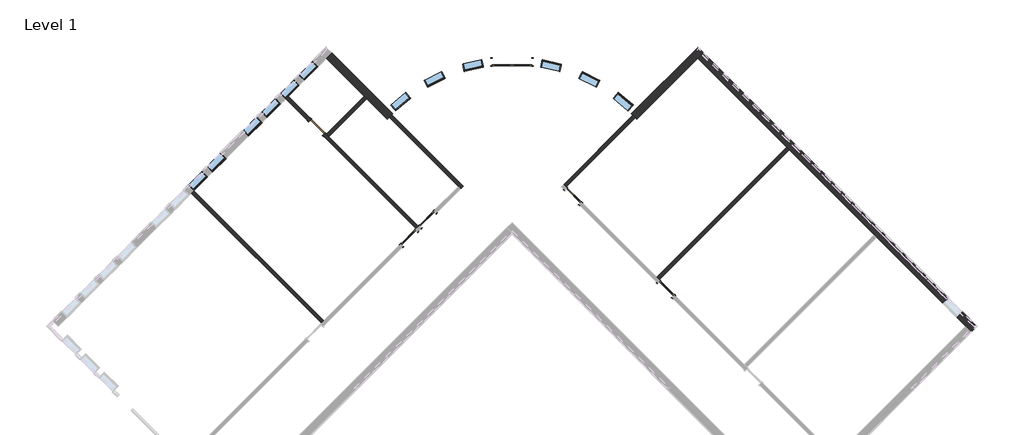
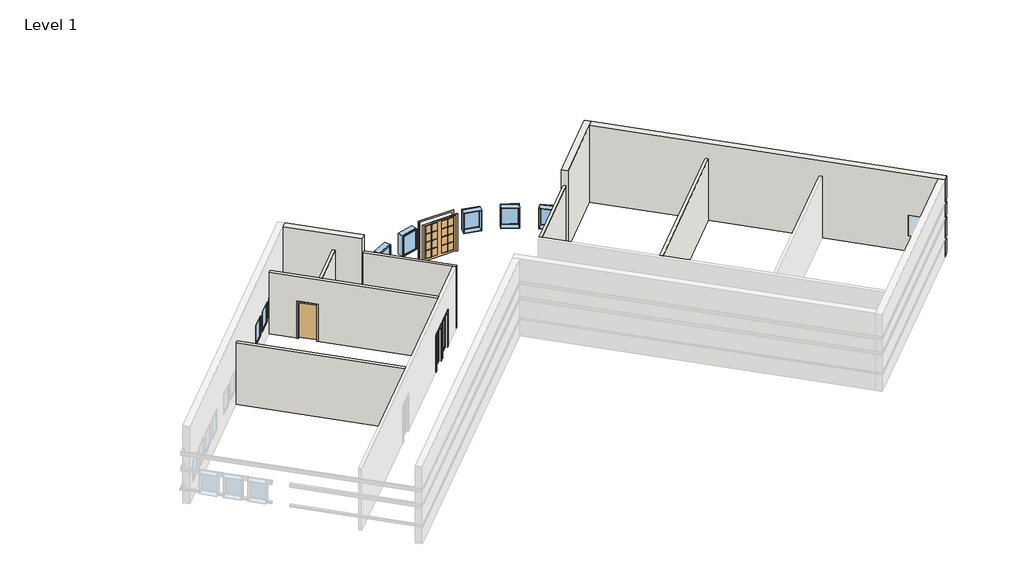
# One storey, part 2 of 3: 12 windows, 9 walls, 6 doors.
"""IFC4 building model written with IfcOpenShell, lengths in millimetres."""

from ifc_helpers import new_model, si_unit, point, frame, frame_2d, origin, origin_with_axes, place, context, project, spatial, polyline, circle_curve, trimmed, segment, composite_curve, outline, extrude, faceted_brep, transform, mapped, element, save
from ifc_brep_helpers import plane_surface, cylinder_surface, revolved_surface, advanced_brep
from components import door_0a477ef8, door_f9494b7c, door_b81abb0e, door_5f5b55da, window_15c49d37, window_0e2fc6ce

model = new_model("IFC4")

# Units and contexts
model_context = context("Model", 3, world=origin())
ifc_project = project(units=[si_unit("LENGTHUNIT", "METRE", prefix="MILLI")], contexts=[model_context])

# Site, building, storey
site = spatial("IfcSite", under=ifc_project)
building = spatial("IfcBuilding", under=site)
storey = spatial("IfcBuildingStorey", under=building, Name="Level 1", Elevation=0.0)

# Doors
placement = place(None, origin())
door_shape = door_0a477ef8(model_context)
element("IfcDoor", 1, ObjectType="Double-Glass 2 : 72\" x 84\"", at=placement, inside=storey, context=model_context, shape_type="MappedRepresentation", body=[
    mapped(door_shape, transform((-2868.7603243, 10905.5717204, 0.0), x_axis=(-0.9999999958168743, -9.146721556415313e-05, 0.0), y_axis=(9.146721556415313e-05, -0.9999999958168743, 0.0), z_axis=(0.0, 0.0, 1.0))),
])
door_2_shape = door_f9494b7c(model_context)
element("IfcDoor", 2, ObjectType="Single-Flush : 36\" x 84\"", at=placement, inside=storey, context=model_context, shape_type="MappedRepresentation", body=[
    mapped(door_2_shape, transform((-11920.1265343, 7875.9588464, 0.0), x_axis=(0.7071067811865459, -0.7071067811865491, 0.0), y_axis=(0.7071067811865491, 0.7071067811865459, 0.0), z_axis=(0.0, 0.0, 1.0))),
])
door_3_shape = door_b81abb0e(model_context)
element("IfcDoor", 3, ObjectType="Single-Glass 1 : 36\" x 84\"", at=placement, inside=storey, context=model_context, shape_type="MappedRepresentation", body=[
    mapped(door_3_shape, transform((-7643.2795567, 2737.0072811, 0.0), x_axis=(0.7071067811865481, 0.7071067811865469, 0.0), y_axis=(-0.7071067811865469, 0.7071067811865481, 0.0), z_axis=(0.0, 0.0, 1.0))),
])
door_4_shape = door_5f5b55da(model_context)
element("IfcDoor", 4, ObjectType="Single-Glass 1 : 36\" x 84\"", at=placement, inside=storey, context=model_context, shape_type="MappedRepresentation", body=[
    mapped(door_4_shape, transform((-6781.1749691, 3599.1118687, 0.0), x_axis=(-0.7071067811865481, -0.7071067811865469, 0.0), y_axis=(0.7071067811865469, -0.7071067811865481, 0.0), z_axis=(0.0, 0.0, 1.0))),
])
element("IfcDoor", 5, ObjectType="Single-Glass 1 : 36\" x 84\"", at=placement, inside=storey, context=model_context, shape_type="MappedRepresentation", body=[
    mapped(door_4_shape, transform((-32.5124941, 4676.7426033, 0.0), x_axis=(-0.7071067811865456, 0.7071067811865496, 0.0), y_axis=(-0.7071067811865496, -0.7071067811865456, 0.0), z_axis=(0.0, 0.0, 1.0))),
])
element("IfcDoor", 6, ObjectType="Single-Glass 1 : 36\" x 84\"", at=placement, inside=storey, context=model_context, shape_type="MappedRepresentation", body=[
    mapped(door_4_shape, transform((4278.010444, 366.2196652, 0.0), x_axis=(-0.7071067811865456, 0.7071067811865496, 0.0), y_axis=(-0.7071067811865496, -0.7071067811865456, 0.0), z_axis=(0.0, 0.0, 1.0))),
])

# Walls
element("IfcWall", 7, ObjectType="Exterior - Split Face and CMU on Mtl. Stud", at=placement, inside=storey, context=model_context, shape_type="AdvancedBrep", body=[
    advanced_brep(
    [(2921.9555443, 8244.1131219, 0.0), (5753.0175119, 11075.1750895, 0.0), (6002.2196193, 11324.3771969, 0.0), (6002.2196193, 11324.3771969, 1016.0), (5937.1127624, 11259.27034, 1016.0), (5937.1127624, 11259.27034, 1085.85), (6002.2196193, 11324.3771969, 1085.85), (6002.2196193, 11324.3771969, 2133.6), (5937.1127624, 11259.27034, 2133.6), (5937.1127624, 11259.27034, 2336.8), (6002.2196193, 11324.3771969, 2336.8), (6002.2196193, 11324.3771969, 3048.0), (5937.1127624, 11259.27034, 3048.0), (5937.1127624, 11259.27034, 3251.2), (6002.2196193, 11324.3771969, 3251.2), (6002.2196193, 11324.3771969, 4572.0), (5753.0175119, 11075.1750895, 4572.0), (2921.9555443, 8244.1131219, 4572.0), (2677.2250436, 8497.7868359, 4572.0), (2926.4294954, 8746.9912878, 4572.0), (5753.0175119, 11573.5793042, 4572.0), (5753.0175119, 11573.5793042, 3251.2), (2926.4294954, 8746.9912878, 3251.2), (2861.3220456, 8681.8838379, 3251.2), (2861.3220456, 8681.8838379, 3048.0), (2926.4294954, 8746.9912878, 3048.0), (5753.0175119, 11573.5793042, 3048.0), (5753.0175119, 11573.5793042, 2336.8), (2926.4294954, 8746.9912878, 2336.8), (2861.3220456, 8681.8838379, 2336.8), (2861.3220456, 8681.8838379, 2133.6), (2926.4294954, 8746.9912878, 2133.6), (5753.0175119, 11573.5793042, 2133.6), (5753.0175119, 11573.5793042, 1085.85), (2926.4294954, 8746.9912878, 1085.85), (2861.3220456, 8681.8838379, 1085.85), (2861.3220456, 8681.8838379, 1016.0), (2926.4294954, 8746.9912878, 1016.0), (5753.0175119, 11573.5793042, 1016.0), (5753.0175119, 11573.5793042, 0.0), (2926.4294954, 8746.9912878, 0.0), (2677.2250436, 8497.7868359, 0.0), (5818.1243688, 11508.4724474, 0.0), (2742.2400511, 8432.5881297, 0.0), (2746.6957919, 8428.0636143, 0.0), (2854.7303749, 8316.0819224, 0.0), (5753.0175119, 11443.3655905, 1085.85), (2926.3399919, 8616.6880705, 1085.85), (2926.3399919, 8616.6880705, 1016.0), (5753.0175119, 11443.3655905, 1016.0), (2926.3399919, 8616.6880705, 2133.6), (5753.0175119, 11443.3655905, 2133.6), (2926.3399919, 8616.6880705, 2336.8), (5753.0175119, 11443.3655905, 2336.8), (2926.3399919, 8616.6880705, 3048.0), (5753.0175119, 11443.3655905, 3048.0), (2926.3399919, 8616.6880705, 3251.2), (5753.0175119, 11443.3655905, 3251.2)],
    [
        (0, 1),
        (1, 2),
        (2, 3),
        (3, 4),
        (4, 5),
        (5, 6),
        (6, 7),
        (7, 8),
        (8, 9),
        (9, 10),
        (10, 11),
        (11, 12),
        (12, 13),
        (13, 14),
        (14, 15),
        (15, 16),
        (16, 17),
        (17, 0),
        (18, 19),
        (19, 20),
        (20, 21),
        (21, 22),
        (22, 23),
        (23, 24),
        (24, 25),
        (25, 26),
        (26, 27),
        (27, 28),
        (28, 29),
        (29, 30),
        (30, 31),
        (31, 32),
        (32, 33),
        (33, 34),
        (34, 35),
        (35, 36),
        (36, 37),
        (37, 38),
        (38, 39),
        (39, 40),
        (40, 41),
        (41, 18),
        (15, 20),
        (18, 17, circle_curve(frame((-2868.0283643, 2903.1420194, 4572.0), z_axis=(0.0, 0.0, -1.0), x_axis=(1.0, 0.0, 0.0)), 7877.175)),
        (14, 21),
        (2, 42),
        (42, 39),
        (38, 3),
        (6, 33),
        (32, 7),
        (10, 27),
        (26, 11),
        (41, 43, circle_curve(frame((-2868.0283643, 2903.1420194, 0.0), z_axis=(0.0, 0.0, -1.0), x_axis=(1.0, 0.0, 0.0)), 7877.175)),
        (43, 44, circle_curve(frame((-2868.0283643, 2903.1420194, 0.0), z_axis=(0.0, 0.0, -1.0), x_axis=(1.0, 0.0, 0.0)), 7877.175)),
        (44, 45, circle_curve(frame((-2868.0283643, 2903.1420194, 0.0), z_axis=(0.0, 0.0, -1.0), x_axis=(1.0, 0.0, 0.0)), 7877.175)),
        (45, 0, circle_curve(frame((-2868.0283643, 2903.1420194, 0.0), z_axis=(0.0, 0.0, -1.0), x_axis=(1.0, 0.0, 0.0)), 7877.175)),
        (43, 42),
        (46, 47),
        (47, 35, circle_curve(frame((-2868.0283643, 2903.1420194, 1085.85), z_axis=(0.0, 0.0, 1.0), x_axis=(0.6842862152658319, 0.7292135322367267, 0.0)), 8137.525)),
        (5, 46),
        (48, 49),
        (49, 4),
        (36, 48, circle_curve(frame((-2868.0283643, 2903.1420194, 1016.0), z_axis=(0.0, 0.0, -1.0), x_axis=(0.6842862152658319, 0.7292135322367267, 0.0)), 8137.525)),
        (47, 48),
        (46, 49),
        (50, 51),
        (51, 8),
        (30, 50, circle_curve(frame((-2868.0283643, 2903.1420194, 2133.6), z_axis=(0.0, 0.0, -1.0), x_axis=(0.6842862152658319, 0.7292135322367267, 0.0)), 8137.525)),
        (52, 50),
        (29, 52, circle_curve(frame((-2868.0283643, 2903.1420194, 2336.8), z_axis=(0.0, 0.0, -1.0), x_axis=(0.6842862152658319, 0.7292135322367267, 0.0)), 8137.525)),
        (53, 52),
        (9, 53),
        (53, 51),
        (54, 55),
        (55, 12),
        (24, 54, circle_curve(frame((-2868.0283643, 2903.1420194, 3048.0), z_axis=(0.0, 0.0, -1.0), x_axis=(-0.7040995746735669, 0.7101012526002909, 0.0)), 8137.525)),
        (56, 54),
        (23, 56, circle_curve(frame((-2868.0283643, 2903.1420194, 3251.2), z_axis=(0.0, 0.0, -1.0), x_axis=(-0.7040995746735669, 0.7101012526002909, 0.0)), 8137.525)),
        (57, 56),
        (13, 57),
        (57, 55),
    ],
    [
        plane_surface(frame((2984.8535626, 8307.0111402, 0.0), z_axis=(0.707106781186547, -0.7071067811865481, 0.0), x_axis=(0.7071067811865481, 0.707106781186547, 0.0))),
        plane_surface(frame((2735.6514552, 8556.2132476, 0.0), z_axis=(-0.707106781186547, 0.7071067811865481, 0.0), x_axis=(-0.7071067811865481, -0.707106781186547, 0.0))),
        plane_surface(frame((5877.6185656, 11199.7761432, 4572.0), z_axis=(0.0, 0.0, 1.0), x_axis=(-0.707106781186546, 0.7071067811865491, 0.0))),
        plane_surface(frame((5753.0175119, 11573.5793042, 0.0), z_axis=(0.7071067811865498, 0.7071067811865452, 0.0), x_axis=(-0.7071067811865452, 0.7071067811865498, 0.0))),
        revolved_surface(polyline([(5009.146635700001, 2903.1420194, 0.0), (5009.146635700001, 2903.1420194, 4572.0)]), (-2868.0283643, 2903.1420194, 0.0), (0.0, 0.0, -1.0)),
        plane_surface(frame((3050.2065213, 8372.3640989, 0.0), z_axis=(0.0, 0.0, -1.0000000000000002), x_axis=(-0.7071067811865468, 0.7071067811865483, 0.0))),
        plane_surface(frame((0.0, 0.0, 0.0), z_axis=(0.0, 0.0, -1.0), x_axis=(1.0, 0.0, 0.0))),
        plane_surface(frame((-2868.0283643, 2903.1420194, 1085.85), z_axis=(0.0, 0.0, -1.0), x_axis=(0.6842862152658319, 0.7292135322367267, 0.0))),
        plane_surface(frame((-2868.0283643, 2903.1420194, 1016.0), z_axis=(0.0, 0.0, 1.0), x_axis=(0.6842862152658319, 0.7292135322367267, 0.0))),
        cylinder_surface(frame((-2868.0283643, 2903.1420194, 1016.0), z_axis=(0.0, 0.0, -1.0), x_axis=(0.6842862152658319, 0.7292135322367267, 0.0)), 8137.525),
        plane_surface(frame((2926.3399919, 8616.6880705, 1016.0), z_axis=(-0.7071067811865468, 0.7071067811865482, 0.0), x_axis=(0.7071067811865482, 0.7071067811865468, 0.0))),
        plane_surface(frame((5753.0175119, 11443.3655905, 1016.0), z_axis=(0.70710678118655, 0.7071067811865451, 0.0), x_axis=(0.7071067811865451, -0.70710678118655, 0.0))),
        plane_surface(frame((-2868.0283643, 2903.1420194, 2133.6), z_axis=(0.0, 0.0, 1.0), x_axis=(0.6842862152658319, 0.7292135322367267, 0.0))),
        cylinder_surface(frame((-2868.0283643, 2903.1420194, 2133.6), z_axis=(0.0, 0.0, -1.0), x_axis=(0.6842862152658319, 0.7292135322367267, 0.0)), 8137.525),
        plane_surface(frame((-2868.0283643, 2903.1420194, 2336.8), z_axis=(0.0, 0.0, -1.0), x_axis=(0.6842862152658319, 0.7292135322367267, 0.0))),
        plane_surface(frame((2926.3399919, 8616.6880705, 2133.6), z_axis=(-0.707106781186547, 0.7071067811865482, 0.0), x_axis=(0.7071067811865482, 0.707106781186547, 0.0))),
        plane_surface(frame((5753.0175119, 11443.3655905, 2133.6), z_axis=(0.7071067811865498, 0.7071067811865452, 0.0), x_axis=(0.7071067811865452, -0.7071067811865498, 0.0))),
        plane_surface(frame((-2868.0283643, 2903.1420194, 3048.0), z_axis=(0.0, 0.0, 1.0), x_axis=(-0.7040995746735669, 0.7101012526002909, 0.0))),
        cylinder_surface(frame((-2868.0283643, 2903.1420194, 3048.0), z_axis=(0.0, 0.0, -1.0), x_axis=(-0.7040995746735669, 0.7101012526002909, 0.0)), 8137.525),
        plane_surface(frame((-2868.0283643, 2903.1420194, 3251.2), z_axis=(0.0, 0.0, -1.0), x_axis=(-0.7040995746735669, 0.7101012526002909, 0.0))),
        plane_surface(frame((2926.3399919, 8616.6880705, 3048.0), z_axis=(-0.7071067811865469, 0.7071067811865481, 0.0), x_axis=(0.7071067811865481, 0.7071067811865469, 0.0))),
        plane_surface(frame((5753.0175119, 11443.3655905, 3048.0), z_axis=(0.7071067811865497, 0.7071067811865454, 0.0), x_axis=(0.7071067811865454, -0.7071067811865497, 0.0))),
    ],
    [
        (0, [[1, 2, 3, 4, 5, 6, 7, 8, 9, 10, 11, 12, 13, 14, 15, 16, 17, 18]]),
        (1, [[19, 20, 21, 22, 23, 24, 25, 26, 27, 28, 29, 30, 31, 32, 33, 34, 35, 36, 37, 38, 39, 40, 41, 42]]),
        (2, [[-17, -16, 43, -20, -19, 44]]),
        (3, [[-43, -15, 45, -21]]),
        (3, [[46, 47, -39, 48, -3]]),
        (3, [[49, -33, 50, -7]]),
        (3, [[51, -27, 52, -11]]),
        (4, [[-44, -42, 53, 54, 55, 56, -18]]),
        (5, [[-2, -1, -56, -55, -54, 57, -46]]),
        (6, [[-53, -41, -40, -47, -57]]),
        (7, [[58, 59, -35, -34, -49, -6, 60]]),
        (8, [[61, 62, -4, -48, -38, -37, 63]]),
        (9, [[64, -63, -36, -59]]),
        (10, [[-58, 65, -61, -64]]),
        (11, [[-65, -60, -5, -62]]),
        (12, [[66, 67, -8, -50, -32, -31, 68]]),
        (13, [[69, -68, -30, 70]]),
        (14, [[71, -70, -29, -28, -51, -10, 72]]),
        (15, [[-66, -69, -71, 73]]),
        (16, [[-73, -72, -9, -67]]),
        (17, [[74, 75, -12, -52, -26, -25, 76]]),
        (18, [[77, -76, -24, 78]]),
        (19, [[79, -78, -23, -22, -45, -14, 80]]),
        (20, [[-74, -77, -79, 81]]),
        (21, [[-81, -80, -13, -75]]),
    ],
),
])
element("IfcWall", 8, ObjectType="Exterior - Split Face and CMU on Mtl. Stud", at=placement, inside=storey, context=model_context, shape_type="Brep", body=[
    faceted_brep([(5753.0175119, 11075.1750895, 0.0), (9883.9353276, 6944.2572738, 0.0), (9993.9434651, 6834.2491364, 0.0), (13945.2561584, 2882.9364431, 0.0), (14055.2642958, 2772.9283056, 0.0), (18186.1821115, -1357.9895101, 0.0), (18435.3842189, -1607.1916175, 0.0), (18435.3842189, -1607.1916175, 1016.0), (18370.277362, -1542.0847606, 1016.0), (18370.277362, -1542.0847606, 1085.85), (18435.3842189, -1607.1916175, 1085.85), (18435.3842189, -1607.1916175, 2133.6), (18370.277362, -1542.0847606, 2133.6), (18370.277362, -1542.0847606, 2336.8), (18435.3842189, -1607.1916175, 2336.8), (18435.3842189, -1607.1916175, 3048.0), (18370.277362, -1542.0847606, 3048.0), (18370.277362, -1542.0847606, 3251.2), (18435.3842189, -1607.1916175, 3251.2), (18435.3842189, -1607.1916175, 4572.0), (18186.1821115, -1357.9895101, 4572.0), (5753.0175119, 11075.1750895, 4572.0), (17771.967798, -943.7751965, 2133.6), (17771.967798, -943.7751965, 914.4), (17125.3893572, -297.1967558, 914.4), (17125.3893572, -297.1967558, 2133.6), (6002.2196193, 11324.3771969, 4572.0), (18684.5863263, -1357.9895101, 4572.0), (18684.5863263, -1357.9895101, 3251.2), (6002.2196193, 11324.3771969, 3251.2), (18684.5863263, -1357.9895101, 0.0), (6002.2196193, 11324.3771969, 0.0), (6002.2196193, 11324.3771969, 1016.0), (17374.5914646, -47.9946484, 1016.0), (17374.5914646, -47.9946484, 914.4), (18021.1699053, -694.5730891, 914.4), (18021.1699053, -694.5730891, 1016.0), (18684.5863263, -1357.9895101, 1016.0), (18021.1699053, -694.5730891, 2133.6), (17374.5914646, -47.9946484, 2133.6), (17374.5914646, -47.9946484, 2336.8), (6002.2196193, 11324.3771969, 2336.8), (6002.2196193, 11324.3771969, 3048.0), (18684.5863263, -1357.9895101, 3048.0), (18684.5863263, -1357.9895101, 2336.8), (18021.1699053, -694.5730891, 2336.8), (17374.5914646, -47.9946484, 1085.85), (6002.2196193, 11324.3771969, 1085.85), (6002.2196193, 11324.3771969, 2133.6), (18021.1699053, -694.5730891, 1085.85), (18684.5863263, -1357.9895101, 2133.6), (18684.5863263, -1357.9895101, 1085.85), (18619.4794694, -1423.096367, 0.0), (5937.1127624, 11259.27034, 3251.2), (5937.1127624, 11259.27034, 3048.0), (5937.1127624, 11259.27034, 2336.8), (5937.1127624, 11259.27034, 2133.6), (5937.1127624, 11259.27034, 1085.85), (5937.1127624, 11259.27034, 1016.0), (5937.1127624, 11259.27034, 0.0), (17956.0630484, -759.679946, 2133.6), (17956.0630484, -759.679946, 1085.85), (17956.0630484, -759.679946, 1016.0), (17309.4846077, -113.1015053, 1016.0), (17309.4846077, -113.1015053, 1085.85), (17309.4846077, -113.1015053, 2133.6), (18554.3726125, -1357.9895101, 1085.85), (18554.3726125, -1357.9895101, 1016.0), (17309.4846077, -113.1015053, 2133.6), (17309.4846077, -113.1015053, 2336.8), (17956.0630484, -759.679946, 2133.6), (17956.0630484, -759.679946, 2336.8), (18554.3726125, -1357.9895101, 2133.6), (18554.3726125, -1357.9895101, 2336.8), (18554.3726125, -1357.9895101, 3048.0), (18554.3726125, -1357.9895101, 3251.2)], [[[0, 1, 2, 3, 4, 5, 6, 7, 8, 9, 10, 11, 12, 13, 14, 15, 16, 17, 18, 19, 20, 21], [22, 23, 24, 25]], [[26, 27, 28, 29]], [[30, 31, 32, 33, 34, 35, 36, 37]], [[38, 39, 40, 41, 42, 43, 44, 45]], [[39, 46, 47, 48]], [[49, 38, 50, 51]], [[21, 20, 19, 27, 26]], [[27, 19, 18, 28]], [[6, 52, 30, 37, 7]], [[10, 51, 50, 11]], [[14, 44, 43, 15]], [[0, 21, 26, 29, 53, 54, 42, 41, 55, 56, 48, 47, 57, 58, 32, 31, 59]], [[6, 5, 4, 3, 2, 1, 0, 59, 52]], [[59, 31, 30, 52]], [[23, 22, 60, 38, 49, 61, 62, 36, 35]], [[24, 23, 35, 34]], [[25, 24, 34, 33, 63, 64, 46, 39, 65]], [[22, 25, 65, 39, 38, 60]], [[64, 57, 47, 46]], [[58, 63, 33, 32]], [[57, 64, 63, 58]], [[66, 61, 49, 51, 10, 9]], [[62, 67, 8, 7, 37, 36]], [[61, 66, 67, 62]], [[67, 66, 9, 8]], [[68, 39, 48, 56]], [[40, 69, 55, 41]], [[39, 68, 69, 40]], [[69, 68, 56, 55]], [[70, 38, 45, 71]], [[38, 70, 72, 12, 11, 50]], [[70, 71, 73, 72]], [[71, 45, 44, 14, 13, 73]], [[72, 73, 13, 12]], [[54, 74, 16, 15, 43, 42]], [[17, 75, 53, 29, 28, 18]], [[75, 74, 54, 53]], [[74, 75, 17, 16]]]),
])
element("IfcWall", 9, ObjectType="Exterior - Split Face and CMU on Mtl. Stud", at=placement, inside=storey, context=model_context, shape_type="AdvancedBrep", body=[
    advanced_brep(
    [(-11489.0742405, 11075.1750895, 0.0), (-9728.9440408, 9315.0448898, 0.0), (-9618.9359033, 9205.0367523, 0.0), (-8658.0122729, 8244.1131219, 0.0), (-8658.0122729, 8244.1131219, 4572.0), (-11489.0742405, 11075.1750895, 4572.0), (-11239.8721332, 11324.3771969, 4572.0), (-8662.486224, 8746.9912878, 4572.0), (-8413.2817722, 8497.7868359, 4572.0), (-8413.2817722, 8497.7868359, 0.0), (-8662.486224, 8746.9912878, 0.0), (-11239.8721332, 11324.3771969, 0.0), (-11239.8721332, 11324.3771969, 1016.0), (-8662.486224, 8746.9912878, 1016.0), (-8597.3787742, 8681.8838379, 1016.0), (-8597.3787742, 8681.8838379, 1085.85), (-8662.486224, 8746.9912878, 1085.85), (-11239.8721332, 11324.3771969, 1085.85), (-11239.8721332, 11324.3771969, 2133.6), (-8662.486224, 8746.9912878, 2133.6), (-8597.3787742, 8681.8838379, 2133.6), (-8597.3787742, 8681.8838379, 2336.8), (-8662.486224, 8746.9912878, 2336.8), (-11239.8721332, 11324.3771969, 2336.8), (-11239.8721332, 11324.3771969, 3048.0), (-8662.486224, 8746.9912878, 3048.0), (-8597.3787742, 8681.8838379, 3048.0), (-8597.3787742, 8681.8838379, 3251.2), (-8662.486224, 8746.9912878, 3251.2), (-11239.8721332, 11324.3771969, 3251.2), (-8478.2967797, 8432.5881297, 0.0), (-11304.9789901, 11259.27034, 3251.2), (-11304.9789901, 11259.27034, 3048.0), (-11304.9789901, 11259.27034, 2336.8), (-11304.9789901, 11259.27034, 2133.6), (-11304.9789901, 11259.27034, 1085.85), (-11304.9789901, 11259.27034, 1016.0), (-11304.9789901, 11259.27034, 0.0), (-8662.3967205, 8616.6880705, 1085.85), (-8662.3967205, 8616.6880705, 1016.0), (-8662.3967205, 8616.6880705, 2336.8), (-8662.3967205, 8616.6880705, 2133.6), (-8662.3967205, 8616.6880705, 3251.2), (-8662.3967205, 8616.6880705, 3048.0)],
    [
        (0, 1),
        (1, 2),
        (2, 3),
        (3, 4),
        (4, 5),
        (5, 0),
        (6, 7),
        (7, 8),
        (8, 9),
        (9, 10),
        (10, 11),
        (11, 12),
        (12, 13),
        (13, 14),
        (14, 15),
        (15, 16),
        (16, 17),
        (17, 18),
        (18, 19),
        (19, 20),
        (20, 21),
        (21, 22),
        (22, 23),
        (23, 24),
        (24, 25),
        (25, 26),
        (26, 27),
        (27, 28),
        (28, 29),
        (29, 6),
        (4, 8, circle_curve(frame((-2868.0283643, 2903.1420194, 4572.0), z_axis=(0.0, 0.0, -1.0), x_axis=(1.0, 0.0, 0.0)), 7877.175)),
        (6, 5),
        (3, 30, circle_curve(frame((-2868.0283643, 2903.1420194, 0.0), z_axis=(0.0, 0.0, -1.0), x_axis=(1.0, 0.0, 0.0)), 7877.175)),
        (30, 9, circle_curve(frame((-2868.0283643, 2903.1420194, 0.0), z_axis=(0.0, 0.0, -1.0), x_axis=(1.0, 0.0, 0.0)), 7877.175)),
        (29, 31),
        (31, 32),
        (32, 24),
        (23, 33),
        (33, 34),
        (34, 18),
        (17, 35),
        (35, 36),
        (36, 12),
        (11, 37),
        (37, 0),
        (37, 30),
        (38, 39),
        (39, 36),
        (35, 38),
        (15, 38, circle_curve(frame((-2868.0283643, 2903.1420194, 1085.85), z_axis=(0.0, 0.0, 1.0), x_axis=(-0.7040995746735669, 0.7101012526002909, 0.0)), 8137.525)),
        (39, 14, circle_curve(frame((-2868.0283643, 2903.1420194, 1016.0), z_axis=(0.0, 0.0, -1.0), x_axis=(-0.7040995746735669, 0.7101012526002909, 0.0)), 8137.525)),
        (40, 41),
        (41, 34),
        (33, 40),
        (41, 20, circle_curve(frame((-2868.0283643, 2903.1420194, 2133.6), z_axis=(0.0, 0.0, -1.0), x_axis=(-0.7120553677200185, 0.70212331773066, 0.0)), 8137.525)),
        (40, 21, circle_curve(frame((-2868.0283643, 2903.1420194, 2336.8), z_axis=(0.0, 0.0, -1.0), x_axis=(-0.7120553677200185, 0.70212331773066, 0.0)), 8137.525)),
        (42, 43),
        (43, 32),
        (31, 42),
        (43, 26, circle_curve(frame((-2868.0283643, 2903.1420194, 3048.0), z_axis=(0.0, 0.0, -1.0), x_axis=(-0.7120553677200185, 0.70212331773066, 0.0)), 8137.525)),
        (42, 27, circle_curve(frame((-2868.0283643, 2903.1420194, 3251.2), z_axis=(0.0, 0.0, -1.0), x_axis=(-0.7120553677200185, 0.70212331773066, 0.0)), 8137.525)),
    ],
    [
        plane_surface(frame((-11738.2763479, 11324.3771969, 0.0), z_axis=(-0.7071067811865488, -0.7071067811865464, 0.0), x_axis=(0.7071067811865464, -0.7071067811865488, 0.0))),
        plane_surface(frame((-11489.0742405, 11573.5793042, 0.0), z_axis=(0.7071067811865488, 0.7071067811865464, 0.0), x_axis=(-0.7071067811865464, 0.7071067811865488, 0.0))),
        plane_surface(frame((-8786.2632499, 8372.3640989, 4572.0), z_axis=(0.0, 0.0, 1.0), x_axis=(0.7071067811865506, 0.7071067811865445, 0.0))),
        revolved_surface(polyline([(5009.146635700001, 2903.1420194, 0.0), (5009.146635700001, 2903.1420194, 4572.0)]), (-2868.0283643, 2903.1420194, 0.0), (0.0, 0.0, -1.0)),
        plane_surface(frame((-24171.4409475, -1607.1916175, 0.0), z_axis=(-0.7071067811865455, 0.7071067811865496, 0.0), x_axis=(0.7071067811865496, 0.7071067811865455, 0.0))),
        plane_surface(frame((-11613.6752942, 11199.7761432, 0.0), z_axis=(0.0, 0.0, -1.0000000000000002), x_axis=(0.7071067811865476, 0.7071067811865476, 0.0))),
        plane_surface(frame((0.0, 0.0, 0.0), z_axis=(0.0, 0.0, -1.0), x_axis=(1.0, 0.0, 0.0))),
        plane_surface(frame((-11489.0742405, 11443.3655905, 1016.0), z_axis=(0.7071067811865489, 0.7071067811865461, 0.0), x_axis=(0.7071067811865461, -0.7071067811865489, 0.0))),
        plane_surface(frame((-2868.0283643, 2903.1420194, 1085.85), z_axis=(0.0, 0.0, -1.0), x_axis=(-0.7040995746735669, 0.7101012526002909, 0.0))),
        plane_surface(frame((-2868.0283643, 2903.1420194, 1016.0), z_axis=(0.0, 0.0, 1.0), x_axis=(-0.7040995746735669, 0.7101012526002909, 0.0))),
        cylinder_surface(frame((-2868.0283643, 2903.1420194, 1016.0), z_axis=(0.0, 0.0, -1.0), x_axis=(-0.7040995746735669, 0.7101012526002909, 0.0)), 8137.525),
        plane_surface(frame((-11489.0742405, 11443.3655905, 2133.6), z_axis=(0.7071067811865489, 0.7071067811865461, 0.0), x_axis=(0.7071067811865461, -0.7071067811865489, 0.0))),
        plane_surface(frame((-2868.0283643, 2903.1420194, 2133.6), z_axis=(0.0, 0.0, 1.0), x_axis=(-0.7120553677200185, 0.70212331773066, 0.0))),
        cylinder_surface(frame((-2868.0283643, 2903.1420194, 2133.6), z_axis=(0.0, 0.0, -1.0), x_axis=(-0.7120553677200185, 0.70212331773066, 0.0)), 8137.525),
        plane_surface(frame((-2868.0283643, 2903.1420194, 2336.8), z_axis=(0.0, 0.0, -1.0), x_axis=(-0.7120553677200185, 0.70212331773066, 0.0))),
        plane_surface(frame((-11489.0742405, 11443.3655905, 3048.0), z_axis=(0.7071067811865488, 0.7071067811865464, 0.0), x_axis=(0.7071067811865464, -0.7071067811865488, 0.0))),
        plane_surface(frame((-2868.0283643, 2903.1420194, 3048.0), z_axis=(0.0, 0.0, 1.0), x_axis=(-0.7120553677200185, 0.70212331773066, 0.0))),
        cylinder_surface(frame((-2868.0283643, 2903.1420194, 3048.0), z_axis=(0.0, 0.0, -1.0), x_axis=(-0.7120553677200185, 0.70212331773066, 0.0)), 8137.525),
        plane_surface(frame((-2868.0283643, 2903.1420194, 3251.2), z_axis=(0.0, 0.0, -1.0), x_axis=(-0.7120553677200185, 0.70212331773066, 0.0))),
    ],
    [
        (0, [[1, 2, 3, 4, 5, 6]]),
        (1, [[7, 8, 9, 10, 11, 12, 13, 14, 15, 16, 17, 18, 19, 20, 21, 22, 23, 24, 25, 26, 27, 28, 29, 30]]),
        (2, [[-5, 31, -8, -7, 32]]),
        (3, [[-4, 33, 34, -9, -31]]),
        (4, [[-6, -32, -30, 35, 36, 37, -24, 38, 39, 40, -18, 41, 42, 43, -12, 44, 45]]),
        (5, [[-3, -2, -1, -45, 46, -33]]),
        (6, [[-44, -11, -10, -34, -46]]),
        (7, [[47, 48, -42, 49]]),
        (8, [[50, -49, -41, -17, -16]]),
        (9, [[-48, 51, -14, -13, -43]]),
        (10, [[-47, -50, -15, -51]]),
        (11, [[52, 53, -39, 54]]),
        (12, [[-53, 55, -20, -19, -40]]),
        (13, [[-52, 56, -21, -55]]),
        (14, [[-56, -54, -38, -23, -22]]),
        (15, [[57, 58, -36, 59]]),
        (16, [[-58, 60, -26, -25, -37]]),
        (17, [[-57, 61, -27, -60]]),
        (18, [[-61, -59, -35, -29, -28]]),
    ],
),
])
element("IfcWall", 10, ObjectType="Interior - 6 1/8\" Partition (2-hr)", at=placement, inside=storey, context=model_context, shape_type="Brep", body=[
    faceted_brep([(-7212.2272629, 3278.0677124, 0.0), (-11379.066103, 7444.9065526, 0.0), (-11489.0742405, 7554.9146901, 0.0), (-11541.8332452, 7607.6736948, 0.0), (-11541.8332452, 7607.6736948, 2133.6), (-12188.411686, 8254.2521355, 2133.6), (-12188.411686, 8254.2521355, 0.0), (-13249.2044403, 9315.0448898, 0.0), (-13249.2044403, 9315.0448898, 3657.6), (-11489.0742405, 7554.9146901, 3657.6), (-11379.066103, 7444.9065526, 3657.6), (-7212.2272629, 3278.0677124, 3657.6), (-11651.8413827, 7497.6655573, 2133.6), (-11651.8413827, 7497.6655573, 0.0), (-7322.2354004, 3168.0595749, 0.0), (-7322.2354004, 3168.0595749, 3657.6), (-13359.2125777, 9205.0367523, 3657.6), (-13359.2125777, 9205.0367523, 0.0), (-12298.4198234, 8144.243998, 0.0), (-12298.4198234, 8144.243998, 2133.6)], [[[0, 1, 2, 3, 4, 5, 6, 7, 8, 9, 10, 11]], [[12, 13, 14, 15, 16, 17, 18, 19]], [[14, 13, 3, 2, 1, 0]], [[18, 17, 7, 6]], [[11, 10, 9, 8, 16, 15]], [[8, 7, 17, 16]], [[0, 11, 15, 14]], [[4, 3, 13, 12]], [[5, 4, 12, 19]], [[6, 5, 19, 18]]]),
])
element("IfcWall", 11, ObjectType="Interior - 6 1/8\" Partition (2-hr)", at=placement, inside=storey, context=model_context, shape_type="AdvancedBrep", body=[
    advanced_brep(
    [(-5128.5722782, 5141.7064221, 0.0), (-8449.0111375, 8462.1452813, 0.0), (-8449.0111375, 8462.1452813, 3657.6), (-5128.5722782, 5141.7064221, 3657.6), (-5238.5804157, 5031.6982846, 0.0), (-5238.5804157, 5031.6982846, 3657.6), (-5348.5885532, 5141.7064221, 3657.6), (-8557.7157352, 8350.8336041, 3657.6), (-8557.7157352, 8350.8336041, 0.0), (-5348.5885532, 5141.7064221, 0.0)],
    [
        (0, 1),
        (1, 2),
        (2, 3),
        (3, 0),
        (4, 5),
        (5, 6),
        (6, 7),
        (7, 8),
        (8, 9),
        (9, 4),
        (0, 4),
        (8, 1, circle_curve(frame((-2868.0283643, 2903.1420194, 0.0), z_axis=(0.0, 0.0, -1.0), x_axis=(1.0, 0.0, 0.0)), 7877.175)),
        (2, 7, circle_curve(frame((-2868.0283643, 2903.1420194, 3657.6), z_axis=(0.0, 0.0, 1.0), x_axis=(1.0, 0.0, 0.0)), 7877.175)),
        (5, 3),
    ],
    [
        plane_surface(frame((-5183.576347, 5196.7104908, 0.0), z_axis=(0.7071067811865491, 0.7071067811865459, 0.0), x_axis=(-0.7071067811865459, 0.7071067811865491, 0.0))),
        plane_surface(frame((-5293.5844845, 5086.7023533, 0.0), z_axis=(-0.7071067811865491, -0.7071067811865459, 0.0), x_axis=(0.7071067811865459, -0.7071067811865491, 0.0))),
        plane_surface(frame((-5183.576347, 5196.7104908, 0.0), z_axis=(0.0, 0.0, -1.0), x_axis=(-0.707106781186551, -0.707106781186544, 0.0))),
        plane_surface(frame((-8573.2406241, 8586.374768, 3657.6), z_axis=(0.0, 0.0, 1.0), x_axis=(-0.707106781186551, -0.707106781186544, 0.0))),
        plane_surface(frame((-17899.854579, -7629.5758786, 0.0), z_axis=(0.7071067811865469, -0.7071067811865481, 0.0), x_axis=(0.7071067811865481, 0.7071067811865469, 0.0))),
        cylinder_surface(frame((-2868.0283643, 2903.1420194, 0.0), z_axis=(0.0, 0.0, -1.0), x_axis=(1.0, 0.0, 0.0)), 7877.175),
    ],
    [
        (0, [[1, 2, 3, 4]]),
        (1, [[5, 6, 7, 8, 9, 10]]),
        (2, [[-1, 11, -10, -9, 12]]),
        (3, [[-3, 13, -7, -6, 14]]),
        (4, [[-4, -14, -5, -11]]),
        (5, [[-2, -12, -8, -13]]),
    ],
),
])
element("IfcWall", 12, ObjectType="Interior - 6 1/8\" Partition (2-hr)", at=placement, inside=storey, context=model_context, shape_type="SweptSolid", body=[
    extrude(outline(polyline([(-11489.0742405, 7554.9146901), (-9728.9440408, 9315.0448898), (-9618.9359033, 9205.0367523), (-11379.066103, 7444.9065526), (-11489.0742405, 7554.9146901)])), origin_with_axes(), (0.0, 0.0, 1.0), 3657.6),
])
element("IfcWall", 13, ObjectType="Interior - 6 1/8\" Partition (2-hr)", at=placement, inside=storey, context=model_context, shape_type="SweptSolid", body=[
    extrude(outline(polyline([(-17633.6967091, 4930.552621), (-11596.7195317, -1106.4245564), (-11706.7276692, -1216.4326939), (-17743.7048466, 4820.5444835), (-17633.6967091, 4930.552621)])), origin_with_axes(), (0.0, 0.0, 1.0), 3657.6),
])
element("IfcWall", 14, ObjectType="Interior - 6 1/8\" Partition (2-hr)", at=placement, inside=storey, context=model_context, shape_type="SweptSolid", body=[
    extrude(outline(composite_curve([segment(polyline([(-463.5647879, 5217.8030346), (2746.6957919, 8428.0636143)]), True, "CONTINUOUS"), segment(trimmed(circle_curve(frame_2d((-2868.0283643, 2903.1420194)), 7877.175), [point((2746.6957919, 8428.0636143))], [point((2854.7303749, 8316.0819224))], False, "CARTESIAN"), True, "CONTINUOUS"), segment(polyline([(2854.7303749, 8316.0819224), (-353.5566504, 5107.7948971), (-463.5647879, 5217.8030346)]), True, "CONTINUOUS")], self_intersect=False)), origin_with_axes(), (0.0, 0.0, 1.0), 3657.6),
])
element("IfcWall", 15, ObjectType="Interior - 6 1/8\" Partition (2-hr)", at=placement, inside=storey, context=model_context, shape_type="SweptSolid", body=[
    extrude(outline(polyline([(3846.9581502, 907.2800964), (9883.9353276, 6944.2572738), (9993.9434651, 6834.2491364), (3956.9662877, 797.271959), (3846.9581502, 907.2800964)])), origin_with_axes(), (0.0, 0.0, 1.0), 3657.6),
])

# Windows
window_shape = window_15c49d37(model_context)
element("IfcWindow", 16, ObjectType="Fixed : 36\" x 48\"", at=placement, inside=storey, context=model_context, shape_type="MappedRepresentation", body=[
    mapped(window_shape, transform((-8066.2237793, 9037.6928325, 0.0), x_axis=(-0.7659856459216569, -0.6428576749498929, 0.0), y_axis=(0.6428576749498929, -0.7659856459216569, 0.0), z_axis=(0.0, 0.0, 1.0))),
])
element("IfcWindow", 17, ObjectType="Fixed : 36\" x 48\"", at=placement, inside=storey, context=model_context, shape_type="MappedRepresentation", body=[
    mapped(window_shape, transform((-17463.6610492, 5349.7903882, 0.0), x_axis=(-0.7071067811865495, -0.7071067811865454, 0.0), y_axis=(0.7071067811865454, -0.7071067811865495, 0.0), z_axis=(0.0, 0.0, 1.0))),
])
element("IfcWindow", 18, ObjectType="Fixed : 36\" x 48\"", at=placement, inside=storey, context=model_context, shape_type="MappedRepresentation", body=[
    mapped(window_shape, transform((-16601.5564616, 6211.8949758, 0.0), x_axis=(-0.7071067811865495, -0.7071067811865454, 0.0), y_axis=(0.7071067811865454, -0.7071067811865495, 0.0), z_axis=(0.0, 0.0, 1.0))),
])
element("IfcWindow", 19, ObjectType="Fixed : 36\" x 48\"", at=placement, inside=storey, context=model_context, shape_type="MappedRepresentation", body=[
    mapped(window_shape, transform((-4714.6266038, 10728.998151, 0.0), x_axis=(-0.9743494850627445, -0.22504017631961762, 0.0), y_axis=(0.22504017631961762, -0.9743494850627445, 0.0), z_axis=(0.0, 0.0, 1.0))),
])
element("IfcWindow", 20, ObjectType="Fixed : 36\" x 48\"", at=placement, inside=storey, context=model_context, shape_type="MappedRepresentation", body=[
    mapped(window_shape, transform((-6490.5147795, 10081.6893252, 0.0), x_axis=(-0.8948935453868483, -0.44627966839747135, 0.0), y_axis=(0.44627966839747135, -0.8948935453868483, 0.0), z_axis=(0.0, 0.0, 1.0))),
])
window_2_shape = window_0e2fc6ce(model_context)
element("IfcWindow", 21, ObjectType="Fixed : 36\" x 48\"", at=placement, inside=storey, context=model_context, shape_type="MappedRepresentation", body=[
    mapped(window_2_shape, transform((-12290.3265348, 10523.1249026, 0.0), x_axis=(0.7071067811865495, 0.7071067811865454, 0.0), y_axis=(-0.7071067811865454, 0.7071067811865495, 0.0), z_axis=(0.0, 0.0, 1.0))),
])
element("IfcWindow", 22, ObjectType="Fixed : 36\" x 48\"", at=placement, inside=storey, context=model_context, shape_type="MappedRepresentation", body=[
    mapped(window_2_shape, transform((-13152.4311224, 9661.020315, 0.0), x_axis=(0.7071067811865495, 0.7071067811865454, 0.0), y_axis=(-0.7071067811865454, 0.7071067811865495, 0.0), z_axis=(0.0, 0.0, 1.0))),
])
element("IfcWindow", 23, ObjectType="Fixed : 36\" x 48\"", at=placement, inside=storey, context=model_context, shape_type="MappedRepresentation", body=[
    mapped(window_2_shape, transform((-14014.53571, 8798.9157274, 0.0), x_axis=(0.7071067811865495, 0.7071067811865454, 0.0), y_axis=(-0.7071067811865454, 0.7071067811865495, 0.0), z_axis=(0.0, 0.0, 1.0))),
])
element("IfcWindow", 24, ObjectType="Fixed : 36\" x 48\"", at=placement, inside=storey, context=model_context, shape_type="MappedRepresentation", body=[
    mapped(window_2_shape, transform((-14876.6402977, 7936.8111398, 0.0), x_axis=(0.7071067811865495, 0.7071067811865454, 0.0), y_axis=(-0.7071067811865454, 0.7071067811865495, 0.0), z_axis=(0.0, 0.0, 1.0))),
])
element("IfcWindow", 25, ObjectType="Fixed : 36\" x 48\"", at=placement, inside=storey, context=model_context, shape_type="MappedRepresentation", body=[
    mapped(window_2_shape, transform((2270.3015996, 9087.1823804, 0.0), x_axis=(-0.7661032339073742, 0.6427175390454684, 0.0), y_axis=(-0.6427175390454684, -0.7661032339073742, 0.0), z_axis=(0.0, 0.0, 1.0))),
])
element("IfcWindow", 26, ObjectType="Fixed : 36\" x 48\"", at=placement, inside=storey, context=model_context, shape_type="MappedRepresentation", body=[
    mapped(window_2_shape, transform((-1097.238417, 10745.9153151, 0.0), x_axis=(-0.9743906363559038, 0.22486193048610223, 0.0), y_axis=(-0.22486193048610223, -0.9743906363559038, 0.0), z_axis=(0.0, 0.0, 1.0))),
])
element("IfcWindow", 27, ObjectType="Fixed : 36\" x 48\"", at=placement, inside=storey, context=model_context, shape_type="MappedRepresentation", body=[
    mapped(window_2_shape, transform((684.6935815, 10115.836161, 0.0), x_axis=(-0.8949751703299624, 0.4461159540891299, 0.0), y_axis=(-0.4461159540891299, -0.8949751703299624, 0.0), z_axis=(0.0, 0.0, 1.0))),
])

save(model, "model.ifc")
